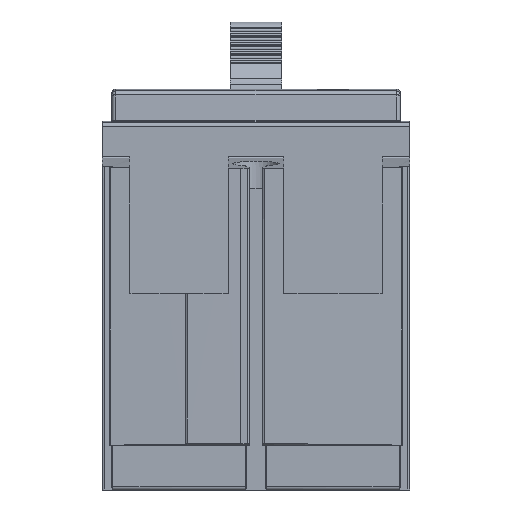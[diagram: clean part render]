
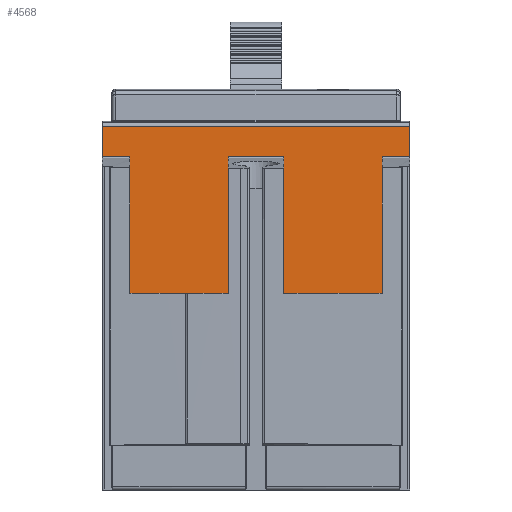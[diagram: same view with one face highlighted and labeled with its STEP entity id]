
A CAD part, front view. The second image highlights one B-rep face of the part: STEP entity #4568.
In plain terms, the highlighted planar face has unit normal (0, -1, 0).
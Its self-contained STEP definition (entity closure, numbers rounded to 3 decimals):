
#154 = VECTOR ( 'NONE', #5461, 1000. ) ;
#308 = VERTEX_POINT ( 'NONE', #6085 ) ;
#391 = DIRECTION ( 'NONE',  ( 0., 0., 1. ) ) ;
#457 = VECTOR ( 'NONE', #3538, 1000. ) ;
#593 = CARTESIAN_POINT ( 'NONE',  ( 4.5, -32.764, 64.112 ) ) ;
#678 = VECTOR ( 'NONE', #7288, 1000. ) ;
#686 = CARTESIAN_POINT ( 'NONE',  ( 20.5, -32.764, 42.185 ) ) ;
#907 = ORIENTED_EDGE ( 'NONE', *, *, #8640, .F. ) ;
#968 = CARTESIAN_POINT ( 'NONE',  ( 25., -32.764, 47.112 ) ) ;
#1226 = LINE ( 'NONE', #4011, #7120 ) ;
#1241 = PLANE ( 'NONE',  #10811 ) ;
#1388 = LINE ( 'NONE', #6083, #457 ) ;
#1428 = EDGE_CURVE ( 'NONE', #308, #1933, #10233, .T. ) ;
#1477 = VERTEX_POINT ( 'NONE', #7176 ) ;
#1533 = FACE_OUTER_BOUND ( 'NONE', #4323, .T. ) ;
#1633 = CARTESIAN_POINT ( 'NONE',  ( -4.5, -32.764, 42.185 ) ) ;
#1933 = VERTEX_POINT ( 'NONE', #8968 ) ;
#2295 = CARTESIAN_POINT ( 'NONE',  ( 25., -32.764, 0. ) ) ;
#2461 = CARTESIAN_POINT ( 'NONE',  ( 20.5, -32.764, 20. ) ) ;
#2520 = VECTOR ( 'NONE', #3956, 1000. ) ;
#2732 = VECTOR ( 'NONE', #7384, 1000. ) ;
#2776 = LINE ( 'NONE', #7258, #678 ) ;
#2799 = EDGE_CURVE ( 'NONE', #9150, #5462, #6147, .T. ) ;
#3043 = VECTOR ( 'NONE', #4219, 1000. ) ;
#3210 = DIRECTION ( 'NONE',  ( 1., 0., 0. ) ) ;
#3336 = CARTESIAN_POINT ( 'NONE',  ( 25., -32.764, 42.185 ) ) ;
#3482 = LINE ( 'NONE', #8166, #7691 ) ;
#3538 = DIRECTION ( 'NONE',  ( 1., 0., 0. ) ) ;
#3560 = EDGE_CURVE ( 'NONE', #6585, #308, #5474, .T. ) ;
#3633 = VERTEX_POINT ( 'NONE', #8561 ) ;
#3740 = ORIENTED_EDGE ( 'NONE', *, *, #1428, .T. ) ;
#3755 = DIRECTION ( 'NONE',  ( 0., 1., 0. ) ) ;
#3791 = ORIENTED_EDGE ( 'NONE', *, *, #8018, .F. ) ;
#3873 = EDGE_CURVE ( 'NONE', #7017, #5462, #3482, .T. ) ;
#3956 = DIRECTION ( 'NONE',  ( 0., 0., -1. ) ) ;
#4011 = CARTESIAN_POINT ( 'NONE',  ( -20.5, -32.764, 64.112 ) ) ;
#4104 = VERTEX_POINT ( 'NONE', #6002 ) ;
#4216 = LINE ( 'NONE', #2295, #2520 ) ;
#4219 = DIRECTION ( 'NONE',  ( 0., 0., -1. ) ) ;
#4323 = EDGE_LOOP ( 'NONE', ( #4330, #5467, #10378, #8510, #3791, #7851, #8977, #5335, #907, #10737, #7076, #3740 ) ) ;
#4330 = ORIENTED_EDGE ( 'NONE', *, *, #5986, .F. ) ;
#4568 = ADVANCED_FACE ( 'NONE', ( #1533 ), #1241, .F. ) ;
#4916 = CARTESIAN_POINT ( 'NONE',  ( 4.5, -32.764, 20. ) ) ;
#5274 = DIRECTION ( 'NONE',  ( -1., 0., 0. ) ) ;
#5335 = ORIENTED_EDGE ( 'NONE', *, *, #10251, .F. ) ;
#5338 = VECTOR ( 'NONE', #5274, 1000. ) ;
#5411 = VECTOR ( 'NONE', #10669, 1000. ) ;
#5461 = DIRECTION ( 'NONE',  ( 0., 0., -1. ) ) ;
#5462 = VERTEX_POINT ( 'NONE', #8695 ) ;
#5467 = ORIENTED_EDGE ( 'NONE', *, *, #7098, .T. ) ;
#5474 = LINE ( 'NONE', #968, #5338 ) ;
#5664 = VERTEX_POINT ( 'NONE', #686 ) ;
#5968 = DIRECTION ( 'NONE',  ( -1., 0., 0. ) ) ;
#5986 = EDGE_CURVE ( 'NONE', #1477, #1933, #8621, .T. ) ;
#6002 = CARTESIAN_POINT ( 'NONE',  ( 25., -32.764, 42.185 ) ) ;
#6083 = CARTESIAN_POINT ( 'NONE',  ( 20.5, -32.764, 20. ) ) ;
#6085 = CARTESIAN_POINT ( 'NONE',  ( -25., -32.764, 47.112 ) ) ;
#6147 = LINE ( 'NONE', #10599, #2732 ) ;
#6563 = LINE ( 'NONE', #3336, #9295 ) ;
#6585 = VERTEX_POINT ( 'NONE', #9585 ) ;
#7017 = VERTEX_POINT ( 'NONE', #9673 ) ;
#7076 = ORIENTED_EDGE ( 'NONE', *, *, #3560, .T. ) ;
#7098 = EDGE_CURVE ( 'NONE', #1477, #7017, #1226, .T. ) ;
#7120 = VECTOR ( 'NONE', #9827, 1000. ) ;
#7176 = CARTESIAN_POINT ( 'NONE',  ( -20.5, -32.764, 42.185 ) ) ;
#7258 = CARTESIAN_POINT ( 'NONE',  ( 25., -32.764, 42.185 ) ) ;
#7288 = DIRECTION ( 'NONE',  ( -1., 0., 0. ) ) ;
#7384 = DIRECTION ( 'NONE',  ( 0., 0., -1. ) ) ;
#7587 = EDGE_CURVE ( 'NONE', #3633, #9253, #7647, .T. ) ;
#7647 = LINE ( 'NONE', #593, #5411 ) ;
#7691 = VECTOR ( 'NONE', #3210, 1000. ) ;
#7851 = ORIENTED_EDGE ( 'NONE', *, *, #7587, .T. ) ;
#8018 = EDGE_CURVE ( 'NONE', #3633, #9150, #2776, .T. ) ;
#8166 = CARTESIAN_POINT ( 'NONE',  ( -20.5, -32.764, 20. ) ) ;
#8290 = LINE ( 'NONE', #8345, #3043 ) ;
#8345 = CARTESIAN_POINT ( 'NONE',  ( 20.5, -32.764, 64.112 ) ) ;
#8510 = ORIENTED_EDGE ( 'NONE', *, *, #2799, .F. ) ;
#8561 = CARTESIAN_POINT ( 'NONE',  ( 4.5, -32.764, 42.185 ) ) ;
#8621 = LINE ( 'NONE', #10092, #10865 ) ;
#8640 = EDGE_CURVE ( 'NONE', #4104, #5664, #6563, .T. ) ;
#8673 = DIRECTION ( 'NONE',  ( -1., 0., 0. ) ) ;
#8695 = CARTESIAN_POINT ( 'NONE',  ( -4.5, -32.764, 20. ) ) ;
#8847 = EDGE_CURVE ( 'NONE', #9253, #10182, #1388, .T. ) ;
#8968 = CARTESIAN_POINT ( 'NONE',  ( -25., -32.764, 42.185 ) ) ;
#8977 = ORIENTED_EDGE ( 'NONE', *, *, #8847, .T. ) ;
#9150 = VERTEX_POINT ( 'NONE', #1633 ) ;
#9253 = VERTEX_POINT ( 'NONE', #4916 ) ;
#9295 = VECTOR ( 'NONE', #8673, 1000. ) ;
#9585 = CARTESIAN_POINT ( 'NONE',  ( 25., -32.764, 47.112 ) ) ;
#9673 = CARTESIAN_POINT ( 'NONE',  ( -20.5, -32.764, 20. ) ) ;
#9682 = CARTESIAN_POINT ( 'NONE',  ( -25., -32.764, 0. ) ) ;
#9827 = DIRECTION ( 'NONE',  ( 0., 0., -1. ) ) ;
#10092 = CARTESIAN_POINT ( 'NONE',  ( 25., -32.764, 42.185 ) ) ;
#10182 = VERTEX_POINT ( 'NONE', #2461 ) ;
#10233 = LINE ( 'NONE', #9682, #154 ) ;
#10251 = EDGE_CURVE ( 'NONE', #5664, #10182, #8290, .T. ) ;
#10378 = ORIENTED_EDGE ( 'NONE', *, *, #3873, .T. ) ;
#10393 = EDGE_CURVE ( 'NONE', #6585, #4104, #4216, .T. ) ;
#10417 = CARTESIAN_POINT ( 'NONE',  ( 25., -32.764, 0. ) ) ;
#10599 = CARTESIAN_POINT ( 'NONE',  ( -4.5, -32.764, 64.112 ) ) ;
#10669 = DIRECTION ( 'NONE',  ( 0., 0., -1. ) ) ;
#10737 = ORIENTED_EDGE ( 'NONE', *, *, #10393, .F. ) ;
#10811 = AXIS2_PLACEMENT_3D ( 'NONE', #10417, #3755, #391 ) ;
#10865 = VECTOR ( 'NONE', #5968, 1000. ) ;
